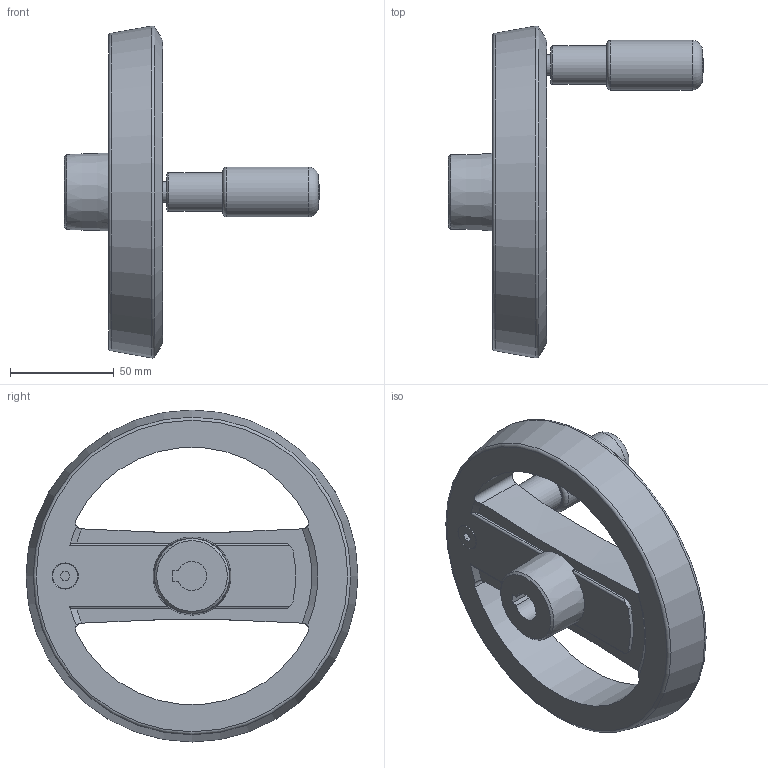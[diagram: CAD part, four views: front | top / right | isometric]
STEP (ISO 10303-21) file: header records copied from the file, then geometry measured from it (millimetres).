
FILE_DESCRIPTION( ( 'STEP AP203' ), '1' );
FILE_NAME( 'C:/Temp/Ganter_Step_05_03_2020/data/1_3/gn_924_3/gn_924_3_k/Handwheel with retractable handle GN 924.3-160-K14-R-SR (activated).stp', '2020-03-05T10:41:15', ( 'License CC BY-ND 4.0' ), ( 'CADENAS' ), ' ', 'PARTsolutions', ' ' );
FILE_SCHEMA( ( 'CONFIG_CONTROL_DESIGN' ) );
Length unit declared in the file: millimetre
Products named in the file (3): Handwheel with retractable handle GN 924.3-160-K14-R-SR (activated); _Umleggriff-Handrad GN 924.3-160-K14-R-SR-1; _Umleggriff-Handrad GN 924.3-160-K14-R-SR-2
Assembly tree (2 placements, depth 2):
  Handwheel with retractable handle GN 924.3-160-K14-R-SR (activated)
    _Umleggriff-Handrad GN 924.3-160-K14-R-SR-1
    _Umleggriff-Handrad GN 924.3-160-K14-R-SR-2
Bounding box: 122.7 x 159.68 x 159.68 mm (x, y, z)
Volume: 293299.3 mm3; surface area: 65554.2 mm2
Topology: 2 solids, 2 shells, 111 faces, 289 edges, 186 vertices
Faces by surface type: plane 49, cylinder 41, cone 12, torus 7, sphere 2
Full cylindrical faces by diameter (mm): 4 x4, 5 x1, 10 x1, 12 x1, 18.5 x1, 24 x1, 25 x1, 26.6 x1
Entity records: 3664 total; most frequent: CARTESIAN_POINT 970, DIRECTION 538, ORIENTED_EDGE 508, EDGE_CURVE 254, AXIS2_PLACEMENT_3D 215, VERTEX_POINT 181, EDGE_LOOP 150, FACE_OUTER_BOUND 129
